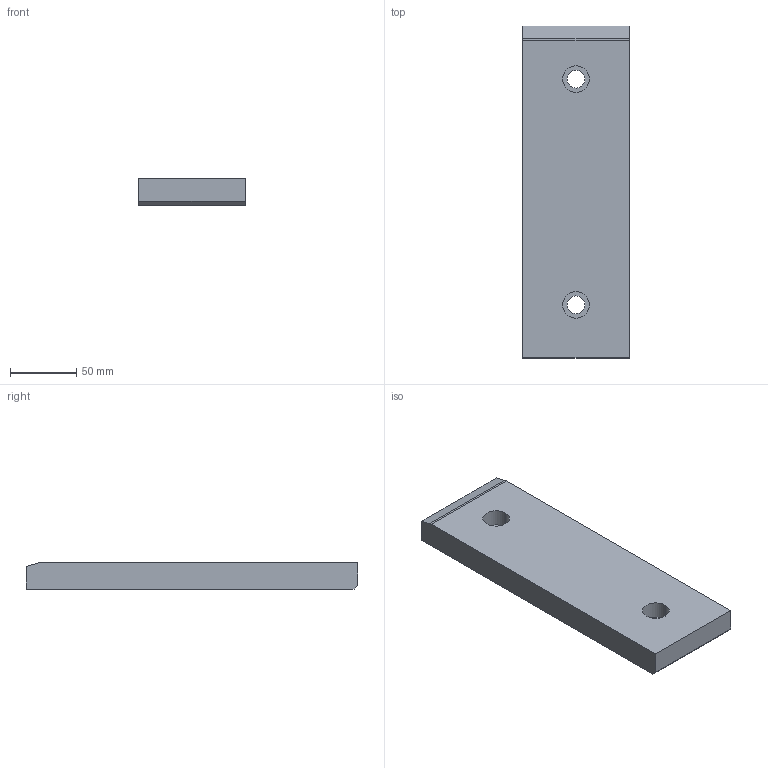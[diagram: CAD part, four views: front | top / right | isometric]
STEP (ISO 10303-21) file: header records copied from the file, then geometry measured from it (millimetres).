
FILE_DESCRIPTION (( 'STEP AP214' ), '1' );
FILE_NAME ('SW225-01-80x250.STEP', '2020-10-21T10:03:03', ( 'August' ), ( '' ), 'SwSTEP 2.0', 'SolidWorks 2018', '' );
FILE_SCHEMA (( 'AUTOMOTIVE_DESIGN' ));
Length unit declared in the file: millimetre
Products named in the file (1): SW225-01-80x250
Bounding box: 80 x 250 x 20 mm (x, y, z)
Volume: 388394.6 mm3; surface area: 54491.7 mm2
Topology: 1 solids, 1 shells, 19 faces, 45 edges, 30 vertices
Faces by surface type: plane 10, cylinder 9
Entity records: 599 total; most frequent: DIRECTION 103, CARTESIAN_POINT 95, ORIENTED_EDGE 90, EDGE_CURVE 45, AXIS2_PLACEMENT_3D 38, VERTEX_POINT 30, VECTOR 27, LINE 27
